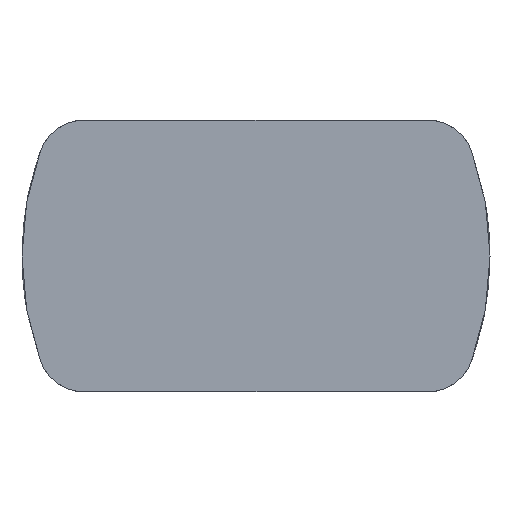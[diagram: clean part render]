
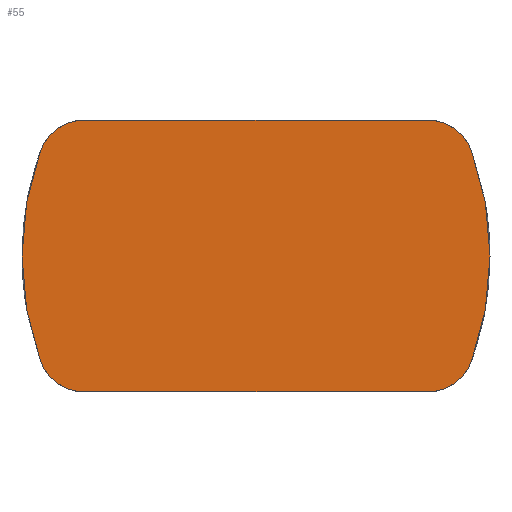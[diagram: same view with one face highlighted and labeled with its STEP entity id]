
A CAD part, front view. The second image highlights one B-rep face of the part: STEP entity #55.
In plain terms, the highlighted planar face has unit normal (0, -1, 0).
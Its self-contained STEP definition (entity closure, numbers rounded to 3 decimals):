
#55=ADVANCED_FACE('',(#104),#106,.F.);
#104=FACE_BOUND('',#105,.T.);
#105=EDGE_LOOP('',(#341,#342,#343,#344,#345,#346,#347,#348));
#106=PLANE('',#107);
#107=AXIS2_PLACEMENT_3D('',#108,#109,#110);
#108=CARTESIAN_POINT('',(0.,0.,0.));
#109=DIRECTION('',(0.,1.,0.));
#110=DIRECTION('',(-1.,0.,0.));
#341=ORIENTED_EDGE('',*,*,#513,.T.);
#342=ORIENTED_EDGE('',*,*,#526,.F.);
#343=ORIENTED_EDGE('',*,*,#527,.F.);
#344=ORIENTED_EDGE('',*,*,#528,.F.);
#345=ORIENTED_EDGE('',*,*,#529,.T.);
#346=ORIENTED_EDGE('',*,*,#530,.F.);
#347=ORIENTED_EDGE('',*,*,#531,.F.);
#348=ORIENTED_EDGE('',*,*,#532,.F.);
#513=EDGE_CURVE('',#609,#607,#610,.T.);
#526=EDGE_CURVE('',#633,#607,#634,.T.);
#527=EDGE_CURVE('',#635,#633,#636,.T.);
#528=EDGE_CURVE('',#637,#635,#638,.T.);
#529=EDGE_CURVE('',#637,#639,#640,.F.);
#530=EDGE_CURVE('',#641,#639,#642,.T.);
#531=EDGE_CURVE('',#643,#641,#644,.T.);
#532=EDGE_CURVE('',#609,#643,#645,.T.);
#607=VERTEX_POINT('',#764);
#609=VERTEX_POINT('',#768);
#610=LINE('',#769,#770);
#633=VERTEX_POINT('',#896);
#634=CIRCLE('',#897,0.6);
#635=VERTEX_POINT('',#901);
#636=CIRCLE('',#902,3.898);
#637=VERTEX_POINT('',#906);
#638=CIRCLE('',#907,0.6);
#639=VERTEX_POINT('',#911);
#640=LINE('',#912,#913);
#641=VERTEX_POINT('',#915);
#642=CIRCLE('',#916,0.6);
#643=VERTEX_POINT('',#920);
#644=CIRCLE('',#921,3.898);
#645=CIRCLE('',#925,0.6);
#764=CARTESIAN_POINT('',(-2.164,0.,1.72));
#768=CARTESIAN_POINT('',(2.164,0.,1.72));
#769=CARTESIAN_POINT('',(2.164,0.,1.72));
#770=VECTOR('',#771,1.);
#771=DIRECTION('',(-1.,0.,0.));
#896=CARTESIAN_POINT('',(-2.728,0.,1.324));
#897=AXIS2_PLACEMENT_3D('',#898,#899,#900);
#898=CARTESIAN_POINT('',(-2.164,0.,1.12));
#899=DIRECTION('',(0.,1.,0.));
#900=DIRECTION('',(-0.941,0.,0.34));
#901=CARTESIAN_POINT('',(-2.728,0.,-1.324));
#902=AXIS2_PLACEMENT_3D('',#903,#904,#905);
#903=CARTESIAN_POINT('',(0.938,0.,0.));
#904=DIRECTION('',(0.,1.,0.));
#905=DIRECTION('',(-0.941,0.,-0.34));
#906=CARTESIAN_POINT('',(-2.164,0.,-1.72));
#907=AXIS2_PLACEMENT_3D('',#908,#909,#910);
#908=CARTESIAN_POINT('',(-2.164,0.,-1.12));
#909=DIRECTION('',(0.,1.,0.));
#910=DIRECTION('',(0.,0.,-1.));
#911=CARTESIAN_POINT('',(2.164,0.,-1.72));
#912=CARTESIAN_POINT('',(2.164,0.,-1.72));
#913=VECTOR('',#914,1.);
#914=DIRECTION('',(-1.,0.,0.));
#915=CARTESIAN_POINT('',(2.728,0.,-1.324));
#916=AXIS2_PLACEMENT_3D('',#917,#918,#919);
#917=CARTESIAN_POINT('',(2.164,0.,-1.12));
#918=DIRECTION('',(0.,1.,0.));
#919=DIRECTION('',(0.941,0.,-0.34));
#920=CARTESIAN_POINT('',(2.728,0.,1.324));
#921=AXIS2_PLACEMENT_3D('',#922,#923,#924);
#922=CARTESIAN_POINT('',(-0.938,0.,0.));
#923=DIRECTION('',(0.,1.,0.));
#924=DIRECTION('',(0.941,0.,0.34));
#925=AXIS2_PLACEMENT_3D('',#926,#927,#928);
#926=CARTESIAN_POINT('',(2.164,0.,1.12));
#927=DIRECTION('',(0.,1.,0.));
#928=DIRECTION('',(0.,0.,1.));
